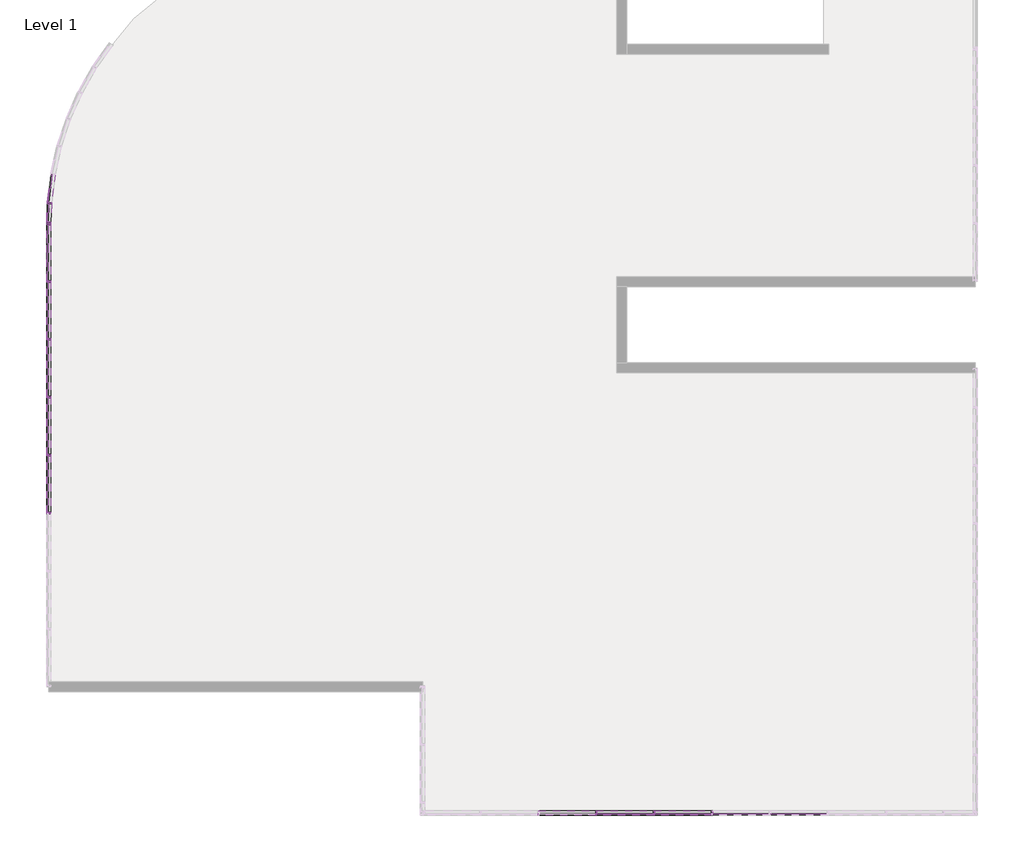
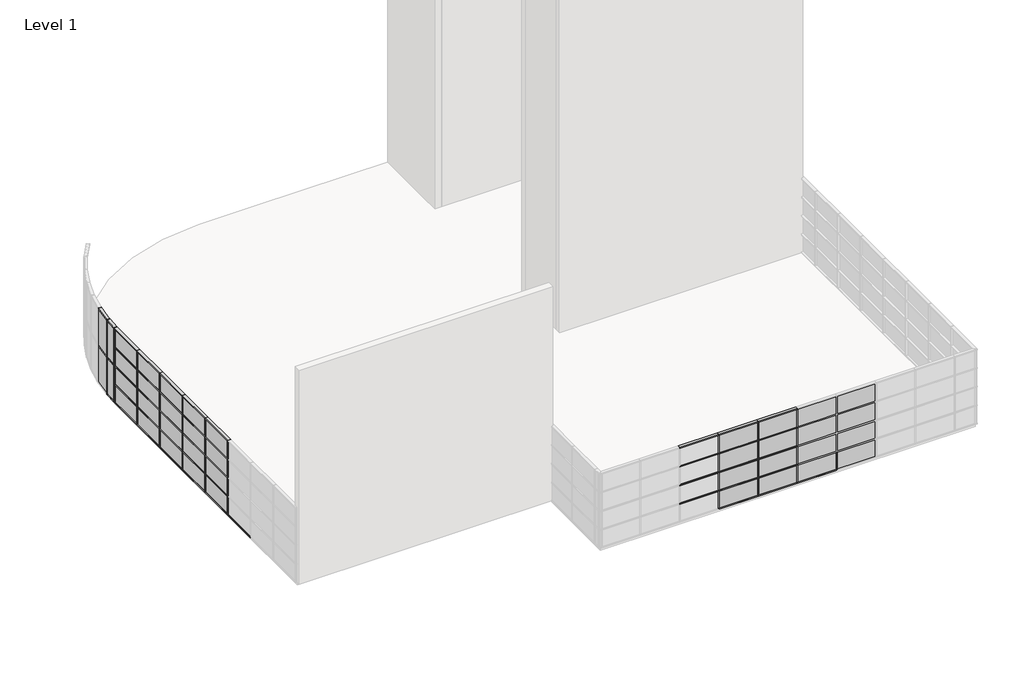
# One storey, part 2 of 6: 87 members, 40 plates.
"""IFC4 building model written with IfcOpenShell, lengths in millimetres."""

from ifc_helpers import new_model, si_unit, origin, place, context, project, spatial, transform, mapped, element, save
from components import rectangular_mullion_50_x_150mm_a053b0ca, rectangular_mullion_50_x_150mm_116cff39, rectangular_mullion_50_x_150mm_aa47fe12, rectangular_mullion_50_x_150mm_3a148f0f, rectangular_mullion_50_x_150mm_a91aaa2b, rectangular_mullion_50_x_150mm_12a430f9, rectangular_mullion_50_x_150mm_25f32059, rectangular_mullion_50_x_150mm_33fa7e5f, rectangular_mullion_50_x_150mm_5679a0dd, system_panel_glazed_92d57a36, system_panel_glazed_751a585c, system_panel_glazed_28c32ad2, system_panel_glazed_08de6f5f, system_panel_glazed_883c1928, system_panel_glazed_b9387e44, system_panel_glazed_02b1be20, system_panel_glazed_efad819a

model = new_model("IFC4")

# Units and contexts
model_context = context("Model", 3, world=origin())
ifc_project = project(units=[si_unit("LENGTHUNIT", "METRE", prefix="MILLI")], contexts=[model_context])

# Site, building, storey
site = spatial("IfcSite", under=ifc_project)
building = spatial("IfcBuilding", under=site)
storey = spatial("IfcBuildingStorey", under=building, Name="Level 1", Elevation=0.0)

# Members
placement = place(None, origin())
rectangular_mullion_50_x_150mm_shape = rectangular_mullion_50_x_150mm_a053b0ca(model_context)
element("IfcMember", 1, ObjectType="Rectangular Mullion : 50 x 150mm", at=placement, inside=storey, context=model_context, shape_type="MappedRepresentation", body=[
    mapped(rectangular_mullion_50_x_150mm_shape, transform((412.826594, -21988.7417365, 1025.0), x_axis=(1.0, 0.0, 0.0), y_axis=(0.0, -1.0, 0.0), z_axis=(0.0, 0.0, -0.9999999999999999))),
])
element("IfcMember", 2, ObjectType="Rectangular Mullion : 50 x 150mm", at=placement, inside=storey, context=model_context, shape_type="MappedRepresentation", body=[
    mapped(rectangular_mullion_50_x_150mm_shape, transform((412.826594, -21988.7417365, 2025.0), x_axis=(1.0, 0.0, 0.0), y_axis=(0.0, -1.0, 0.0), z_axis=(0.0, 0.0, -0.9999999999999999))),
])
element("IfcMember", 3, ObjectType="Rectangular Mullion : 50 x 150mm", at=placement, inside=storey, context=model_context, shape_type="MappedRepresentation", body=[
    mapped(rectangular_mullion_50_x_150mm_shape, transform((412.826594, -21988.7417365, 3025.0), x_axis=(1.0, 0.0, 0.0), y_axis=(0.0, -1.0, 0.0), z_axis=(0.0, 0.0, -1.0))),
])
element("IfcMember", 4, ObjectType="Rectangular Mullion : 50 x 150mm", at=placement, inside=storey, context=model_context, shape_type="MappedRepresentation", body=[
    mapped(rectangular_mullion_50_x_150mm_shape, transform((2412.826594, -21988.7417365, 1025.0), x_axis=(1.0, 0.0, 0.0), y_axis=(0.0, -1.0, 0.0), z_axis=(0.0, 0.0, -0.9999999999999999))),
])
element("IfcMember", 5, ObjectType="Rectangular Mullion : 50 x 150mm", at=placement, inside=storey, context=model_context, shape_type="MappedRepresentation", body=[
    mapped(rectangular_mullion_50_x_150mm_shape, transform((2412.826594, -21988.7417365, 2025.0), x_axis=(1.0, 0.0, 0.0), y_axis=(0.0, -1.0, 0.0), z_axis=(0.0, 0.0, -0.9999999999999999))),
])
element("IfcMember", 6, ObjectType="Rectangular Mullion : 50 x 150mm", at=placement, inside=storey, context=model_context, shape_type="MappedRepresentation", body=[
    mapped(rectangular_mullion_50_x_150mm_shape, transform((2412.826594, -21988.7417365, 3025.0), x_axis=(1.0, 0.0, 0.0), y_axis=(0.0, -1.0, 0.0), z_axis=(0.0, 0.0, -1.0))),
])
element("IfcMember", 7, ObjectType="Rectangular Mullion : 50 x 150mm", at=placement, inside=storey, context=model_context, shape_type="MappedRepresentation", body=[
    mapped(rectangular_mullion_50_x_150mm_shape, transform((4412.826594, -21988.7417365, 1025.0), x_axis=(1.0, 0.0, 0.0), y_axis=(0.0, -1.0, 0.0), z_axis=(0.0, 0.0, -0.9999999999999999))),
])
element("IfcMember", 8, ObjectType="Rectangular Mullion : 50 x 150mm", at=placement, inside=storey, context=model_context, shape_type="MappedRepresentation", body=[
    mapped(rectangular_mullion_50_x_150mm_shape, transform((4412.826594, -21988.7417365, 2025.0), x_axis=(1.0, 0.0, 0.0), y_axis=(0.0, -1.0, 0.0), z_axis=(0.0, 0.0, -0.9999999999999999))),
])
element("IfcMember", 9, ObjectType="Rectangular Mullion : 50 x 150mm", at=placement, inside=storey, context=model_context, shape_type="MappedRepresentation", body=[
    mapped(rectangular_mullion_50_x_150mm_shape, transform((4412.826594, -21988.7417365, 3025.0), x_axis=(1.0, 0.0, 0.0), y_axis=(0.0, -1.0, 0.0), z_axis=(0.0, 0.0, -1.0))),
])
element("IfcMember", 10, ObjectType="Rectangular Mullion : 50 x 150mm", at=placement, inside=storey, context=model_context, shape_type="MappedRepresentation", body=[
    mapped(rectangular_mullion_50_x_150mm_shape, transform((-18496.7339025, -11624.0160434, 1025.0), x_axis=(0.0, -1.0, 0.0), y_axis=(-1.0, 0.0, 0.0), z_axis=(0.0, 0.0, -0.9999999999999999))),
])
element("IfcMember", 11, ObjectType="Rectangular Mullion : 50 x 150mm", at=placement, inside=storey, context=model_context, shape_type="MappedRepresentation", body=[
    mapped(rectangular_mullion_50_x_150mm_shape, transform((-18496.7339025, -11624.0160434, 2025.0), x_axis=(0.0, -1.0, 0.0), y_axis=(-1.0, 0.0, 0.0), z_axis=(0.0, 0.0, -0.9999999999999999))),
])
element("IfcMember", 12, ObjectType="Rectangular Mullion : 50 x 150mm", at=placement, inside=storey, context=model_context, shape_type="MappedRepresentation", body=[
    mapped(rectangular_mullion_50_x_150mm_shape, transform((-18496.7339025, -11624.0160434, 3025.0), x_axis=(0.0, -1.0, 0.0), y_axis=(-1.0, 0.0, 0.0), z_axis=(0.0, 0.0, -1.0))),
])
element("IfcMember", 13, ObjectType="Rectangular Mullion : 50 x 150mm", at=placement, inside=storey, context=model_context, shape_type="MappedRepresentation", body=[
    mapped(rectangular_mullion_50_x_150mm_shape, transform((-18496.7339025, -9624.0160434, 1025.0), x_axis=(0.0, -1.0, 0.0), y_axis=(-1.0, 0.0, 0.0), z_axis=(0.0, 0.0, -0.9999999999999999))),
])
element("IfcMember", 14, ObjectType="Rectangular Mullion : 50 x 150mm", at=placement, inside=storey, context=model_context, shape_type="MappedRepresentation", body=[
    mapped(rectangular_mullion_50_x_150mm_shape, transform((-18496.7339025, -9624.0160434, 2025.0), x_axis=(0.0, -1.0, 0.0), y_axis=(-1.0, 0.0, 0.0), z_axis=(0.0, 0.0, -0.9999999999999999))),
])
element("IfcMember", 15, ObjectType="Rectangular Mullion : 50 x 150mm", at=placement, inside=storey, context=model_context, shape_type="MappedRepresentation", body=[
    mapped(rectangular_mullion_50_x_150mm_shape, transform((-18496.7339025, -7624.0160434, 1025.0), x_axis=(0.0, -1.0, 0.0), y_axis=(-1.0, 0.0, 0.0), z_axis=(0.0, 0.0, -0.9999999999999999))),
])
element("IfcMember", 16, ObjectType="Rectangular Mullion : 50 x 150mm", at=placement, inside=storey, context=model_context, shape_type="MappedRepresentation", body=[
    mapped(rectangular_mullion_50_x_150mm_shape, transform((-18496.7339025, -7624.0160434, 2025.0), x_axis=(0.0, -1.0, 0.0), y_axis=(-1.0, 0.0, 0.0), z_axis=(0.0, 0.0, -0.9999999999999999))),
])
element("IfcMember", 17, ObjectType="Rectangular Mullion : 50 x 150mm", at=placement, inside=storey, context=model_context, shape_type="MappedRepresentation", body=[
    mapped(rectangular_mullion_50_x_150mm_shape, transform((-18496.7339025, -7624.0160434, 3025.0), x_axis=(0.0, -1.0, 0.0), y_axis=(-1.0, 0.0, 0.0), z_axis=(0.0, 0.0, -1.0))),
])
element("IfcMember", 18, ObjectType="Rectangular Mullion : 50 x 150mm", at=placement, inside=storey, context=model_context, shape_type="MappedRepresentation", body=[
    mapped(rectangular_mullion_50_x_150mm_shape, transform((-18496.7339025, -3624.0160434, 1025.0), x_axis=(0.0, -1.0, 0.0), y_axis=(-1.0, 0.0, 0.0), z_axis=(0.0, 0.0, -0.9999999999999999))),
])
element("IfcMember", 19, ObjectType="Rectangular Mullion : 50 x 150mm", at=placement, inside=storey, context=model_context, shape_type="MappedRepresentation", body=[
    mapped(rectangular_mullion_50_x_150mm_shape, transform((-18496.7339025, -3624.0160434, 2025.0), x_axis=(0.0, -1.0, 0.0), y_axis=(-1.0, 0.0, 0.0), z_axis=(0.0, 0.0, -0.9999999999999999))),
])
element("IfcMember", 20, ObjectType="Rectangular Mullion : 50 x 150mm", at=placement, inside=storey, context=model_context, shape_type="MappedRepresentation", body=[
    mapped(rectangular_mullion_50_x_150mm_shape, transform((-18496.7339025, -3624.0160434, 3025.0), x_axis=(0.0, -1.0, 0.0), y_axis=(-1.0, 0.0, 0.0), z_axis=(0.0, 0.0, -1.0))),
])
element("IfcMember", 21, ObjectType="Rectangular Mullion : 50 x 150mm", at=placement, inside=storey, context=model_context, shape_type="MappedRepresentation", body=[
    mapped(rectangular_mullion_50_x_150mm_shape, transform((-18496.7339025, -5624.0160434, 1025.0), x_axis=(0.0, -1.0, 0.0), y_axis=(-1.0, 0.0, 0.0), z_axis=(0.0, 0.0, -0.9999999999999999))),
])
element("IfcMember", 22, ObjectType="Rectangular Mullion : 50 x 150mm", at=placement, inside=storey, context=model_context, shape_type="MappedRepresentation", body=[
    mapped(rectangular_mullion_50_x_150mm_shape, transform((-18496.7339025, -5624.0160434, 2025.0), x_axis=(0.0, -1.0, 0.0), y_axis=(-1.0, 0.0, 0.0), z_axis=(0.0, 0.0, -0.9999999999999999))),
])
element("IfcMember", 23, ObjectType="Rectangular Mullion : 50 x 150mm", at=placement, inside=storey, context=model_context, shape_type="MappedRepresentation", body=[
    mapped(rectangular_mullion_50_x_150mm_shape, transform((-18496.7339025, -5624.0160434, 3025.0), x_axis=(0.0, -1.0, 0.0), y_axis=(-1.0, 0.0, 0.0), z_axis=(0.0, 0.0, -1.0))),
])
element("IfcMember", 24, ObjectType="Rectangular Mullion : 50 x 150mm", at=placement, inside=storey, context=model_context, shape_type="MappedRepresentation", body=[
    mapped(rectangular_mullion_50_x_150mm_shape, transform((-18496.7339025, -9624.0160434, 3025.0), x_axis=(0.0, -1.0, 0.0), y_axis=(-1.0, 0.0, 0.0), z_axis=(0.0, 0.0, -1.0))),
])
rectangular_mullion_50_x_150mm_2_shape = rectangular_mullion_50_x_150mm_116cff39(model_context)
element("IfcMember", 25, ObjectType="Rectangular Mullion : 50 x 150mm", at=placement, inside=storey, context=model_context, shape_type="MappedRepresentation", body=[
    mapped(rectangular_mullion_50_x_150mm_2_shape, transform((412.826594, -21988.7417365, 50.0), x_axis=(1.0, 0.0, 0.0), y_axis=(0.0, -1.0, 0.0), z_axis=(0.0, 0.0, -1.0))),
])
element("IfcMember", 26, ObjectType="Rectangular Mullion : 50 x 150mm", at=placement, inside=storey, context=model_context, shape_type="MappedRepresentation", body=[
    mapped(rectangular_mullion_50_x_150mm_2_shape, transform((2412.826594, -21988.7417365, 50.0), x_axis=(1.0, 0.0, 0.0), y_axis=(0.0, -1.0, 0.0), z_axis=(0.0, 0.0, -1.0))),
])
element("IfcMember", 27, ObjectType="Rectangular Mullion : 50 x 150mm", at=placement, inside=storey, context=model_context, shape_type="MappedRepresentation", body=[
    mapped(rectangular_mullion_50_x_150mm_2_shape, transform((4412.826594, -21988.7417365, 50.0), x_axis=(1.0, 0.0, 0.0), y_axis=(0.0, -1.0, 0.0), z_axis=(0.0, 0.0, -1.0))),
])
element("IfcMember", 28, ObjectType="Rectangular Mullion : 50 x 150mm", at=placement, inside=storey, context=model_context, shape_type="MappedRepresentation", body=[
    mapped(rectangular_mullion_50_x_150mm_2_shape, transform((6412.826594, -21988.7417365, 50.0), x_axis=(1.0, 0.0, 0.0), y_axis=(0.0, -1.0, 0.0), z_axis=(0.0, 0.0, -1.0))),
])
element("IfcMember", 29, ObjectType="Rectangular Mullion : 50 x 150mm", at=placement, inside=storey, context=model_context, shape_type="MappedRepresentation", body=[
    mapped(rectangular_mullion_50_x_150mm_2_shape, transform((-18496.7339025, -9624.0160434, 50.0), x_axis=(0.0, -1.0, 0.0), y_axis=(-1.0, 0.0, 0.0), z_axis=(0.0, 0.0, -0.9999999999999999))),
])
element("IfcMember", 30, ObjectType="Rectangular Mullion : 50 x 150mm", at=placement, inside=storey, context=model_context, shape_type="MappedRepresentation", body=[
    mapped(rectangular_mullion_50_x_150mm_2_shape, transform((-18496.7339025, -7624.0160434, 50.0), x_axis=(0.0, -1.0, 0.0), y_axis=(-1.0, 0.0, 0.0), z_axis=(0.0, 0.0, -1.0))),
])
element("IfcMember", 31, ObjectType="Rectangular Mullion : 50 x 150mm", at=placement, inside=storey, context=model_context, shape_type="MappedRepresentation", body=[
    mapped(rectangular_mullion_50_x_150mm_2_shape, transform((-18496.7339025, -3624.0160434, 50.0), x_axis=(0.0, -1.0, 0.0), y_axis=(-1.0, 0.0, 0.0), z_axis=(0.0, 0.0, -1.0))),
])
element("IfcMember", 32, ObjectType="Rectangular Mullion : 50 x 150mm", at=placement, inside=storey, context=model_context, shape_type="MappedRepresentation", body=[
    mapped(rectangular_mullion_50_x_150mm_2_shape, transform((-18496.7339025, -5624.0160434, 50.0), x_axis=(0.0, -1.0, 0.0), y_axis=(-1.0, 0.0, 0.0), z_axis=(0.0, 0.0, -1.0))),
])
element("IfcMember", 33, ObjectType="Rectangular Mullion : 50 x 150mm", at=placement, inside=storey, context=model_context, shape_type="MappedRepresentation", body=[
    mapped(rectangular_mullion_50_x_150mm_2_shape, transform((-18496.7339025, -11624.0160434, 50.0), x_axis=(0.0, -1.0, 0.0), y_axis=(-1.0, 0.0, 0.0), z_axis=(0.0, 0.0, -0.9999999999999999))),
])
rectangular_mullion_50_x_150mm_3_shape = rectangular_mullion_50_x_150mm_aa47fe12(model_context)
element("IfcMember", 34, ObjectType="Rectangular Mullion : 50 x 150mm", at=placement, inside=storey, context=model_context, shape_type="MappedRepresentation", body=[
    mapped(rectangular_mullion_50_x_150mm_3_shape, transform((-18496.7339025, -1624.0160434, 2000.0), x_axis=(-0.03507811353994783, -0.9993845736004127, 0.0), y_axis=(-0.9993845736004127, 0.03507811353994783, 0.0), z_axis=(0.0, 0.0, -1.0))),
])
element("IfcMember", 35, ObjectType="Rectangular Mullion : 50 x 150mm", at=placement, inside=storey, context=model_context, shape_type="MappedRepresentation", body=[
    mapped(rectangular_mullion_50_x_150mm_3_shape, transform((412.826594, -21988.7417365, 0.0), x_axis=(0.0, 0.0, -1.0), y_axis=(0.0, -1.0, 0.0), z_axis=(-1.0, 0.0, 0.0))),
])
element("IfcMember", 36, ObjectType="Rectangular Mullion : 50 x 150mm", at=placement, inside=storey, context=model_context, shape_type="MappedRepresentation", body=[
    mapped(rectangular_mullion_50_x_150mm_3_shape, transform((2412.826594, -21988.7417365, 0.0), x_axis=(0.0, 0.0, -1.0), y_axis=(0.0, -1.0, 0.0), z_axis=(-1.0, 0.0, 0.0))),
])
element("IfcMember", 37, ObjectType="Rectangular Mullion : 50 x 150mm", at=placement, inside=storey, context=model_context, shape_type="MappedRepresentation", body=[
    mapped(rectangular_mullion_50_x_150mm_3_shape, transform((4412.826594, -21988.7417365, 0.0), x_axis=(0.0, 0.0, -1.0), y_axis=(0.0, -1.0, 0.0), z_axis=(-1.0, 0.0, 0.0))),
])
element("IfcMember", 38, ObjectType="Rectangular Mullion : 50 x 150mm", at=placement, inside=storey, context=model_context, shape_type="MappedRepresentation", body=[
    mapped(rectangular_mullion_50_x_150mm_3_shape, transform((-18496.7339025, -3624.0160434, 0.0), x_axis=(0.0, 0.0, -1.0), y_axis=(-1.0, 0.0, 0.0), z_axis=(0.0, 1.0, 0.0))),
])
element("IfcMember", 39, ObjectType="Rectangular Mullion : 50 x 150mm", at=placement, inside=storey, context=model_context, shape_type="MappedRepresentation", body=[
    mapped(rectangular_mullion_50_x_150mm_3_shape, transform((-18496.7339025, -5624.0160434, 0.0), x_axis=(0.0, 0.0, -1.0), y_axis=(-1.0, 0.0, 0.0), z_axis=(0.0, 1.0, 0.0))),
])
element("IfcMember", 40, ObjectType="Rectangular Mullion : 50 x 150mm", at=placement, inside=storey, context=model_context, shape_type="MappedRepresentation", body=[
    mapped(rectangular_mullion_50_x_150mm_3_shape, transform((-18496.7339025, -7624.0160434, 0.0), x_axis=(0.0, 0.0, -1.0), y_axis=(-1.0, 0.0, 0.0), z_axis=(0.0, 1.0, 0.0))),
])
element("IfcMember", 41, ObjectType="Rectangular Mullion : 50 x 150mm", at=placement, inside=storey, context=model_context, shape_type="MappedRepresentation", body=[
    mapped(rectangular_mullion_50_x_150mm_3_shape, transform((-18496.7339025, -9624.0160434, 0.0), x_axis=(0.0, 0.0, -1.0), y_axis=(-1.0, 0.0, 0.0), z_axis=(0.0, 1.0, 0.0))),
])
element("IfcMember", 42, ObjectType="Rectangular Mullion : 50 x 150mm", at=placement, inside=storey, context=model_context, shape_type="MappedRepresentation", body=[
    mapped(rectangular_mullion_50_x_150mm_3_shape, transform((-18496.7339025, -11624.0160434, 0.0), x_axis=(0.0, 0.0, -1.0), y_axis=(-1.0, 0.0, 0.0), z_axis=(0.0, 1.0, 0.0))),
])
rectangular_mullion_50_x_150mm_4_shape = rectangular_mullion_50_x_150mm_3a148f0f(model_context)
element("IfcMember", 43, ObjectType="Rectangular Mullion : 50 x 150mm", at=placement, inside=storey, context=model_context, shape_type="MappedRepresentation", body=[
    mapped(rectangular_mullion_50_x_150mm_4_shape, transform((-18496.7339025, -3624.0160434, 1000.0), x_axis=(0.0, 0.0, 1.0), y_axis=(-1.0, 0.0, 0.0), z_axis=(0.0, -1.0, 0.0))),
])
element("IfcMember", 44, ObjectType="Rectangular Mullion : 50 x 150mm", at=placement, inside=storey, context=model_context, shape_type="MappedRepresentation", body=[
    mapped(rectangular_mullion_50_x_150mm_4_shape, transform((-18496.7339025, -3624.0160434, 2000.0), x_axis=(0.0, 0.0, 1.0), y_axis=(-1.0, 0.0, 0.0), z_axis=(0.0, -1.0, 0.0))),
])
element("IfcMember", 45, ObjectType="Rectangular Mullion : 50 x 150mm", at=placement, inside=storey, context=model_context, shape_type="MappedRepresentation", body=[
    mapped(rectangular_mullion_50_x_150mm_4_shape, transform((-18496.7339025, -3624.0160434, 3000.0), x_axis=(0.0, 0.0, 1.0), y_axis=(-1.0, 0.0, 0.0), z_axis=(0.0, -1.0, 0.0))),
])
element("IfcMember", 46, ObjectType="Rectangular Mullion : 50 x 150mm", at=placement, inside=storey, context=model_context, shape_type="MappedRepresentation", body=[
    mapped(rectangular_mullion_50_x_150mm_4_shape, transform((-18496.7339025, -3624.0160434, 4000.0), x_axis=(0.0, 0.0, 1.0), y_axis=(-1.0, 0.0, 0.0), z_axis=(0.0, -1.0, 0.0))),
])
element("IfcMember", 47, ObjectType="Rectangular Mullion : 50 x 150mm", at=placement, inside=storey, context=model_context, shape_type="MappedRepresentation", body=[
    mapped(rectangular_mullion_50_x_150mm_4_shape, transform((412.826594, -21988.7417365, 1000.0), x_axis=(0.0, 0.0, 1.0), y_axis=(0.0, -1.0, 0.0), z_axis=(1.0, 0.0, 0.0))),
])
element("IfcMember", 48, ObjectType="Rectangular Mullion : 50 x 150mm", at=placement, inside=storey, context=model_context, shape_type="MappedRepresentation", body=[
    mapped(rectangular_mullion_50_x_150mm_4_shape, transform((2412.826594, -21988.7417365, 1000.0), x_axis=(0.0, 0.0, 1.0), y_axis=(0.0, -1.0, 0.0), z_axis=(1.0, 0.0, 0.0))),
])
element("IfcMember", 49, ObjectType="Rectangular Mullion : 50 x 150mm", at=placement, inside=storey, context=model_context, shape_type="MappedRepresentation", body=[
    mapped(rectangular_mullion_50_x_150mm_4_shape, transform((4412.826594, -21988.7417365, 1000.0), x_axis=(0.0, 0.0, 1.0), y_axis=(0.0, -1.0, 0.0), z_axis=(1.0, 0.0, 0.0))),
])
element("IfcMember", 50, ObjectType="Rectangular Mullion : 50 x 150mm", at=placement, inside=storey, context=model_context, shape_type="MappedRepresentation", body=[
    mapped(rectangular_mullion_50_x_150mm_4_shape, transform((412.826594, -21988.7417365, 2000.0), x_axis=(0.0, 0.0, 1.0), y_axis=(0.0, -1.0, 0.0), z_axis=(1.0, 0.0, 0.0))),
])
element("IfcMember", 51, ObjectType="Rectangular Mullion : 50 x 150mm", at=placement, inside=storey, context=model_context, shape_type="MappedRepresentation", body=[
    mapped(rectangular_mullion_50_x_150mm_4_shape, transform((2412.826594, -21988.7417365, 2000.0), x_axis=(0.0, 0.0, 1.0), y_axis=(0.0, -1.0, 0.0), z_axis=(1.0, 0.0, 0.0))),
])
element("IfcMember", 52, ObjectType="Rectangular Mullion : 50 x 150mm", at=placement, inside=storey, context=model_context, shape_type="MappedRepresentation", body=[
    mapped(rectangular_mullion_50_x_150mm_4_shape, transform((4412.826594, -21988.7417365, 2000.0), x_axis=(0.0, 0.0, 1.0), y_axis=(0.0, -1.0, 0.0), z_axis=(1.0, 0.0, 0.0))),
])
element("IfcMember", 53, ObjectType="Rectangular Mullion : 50 x 150mm", at=placement, inside=storey, context=model_context, shape_type="MappedRepresentation", body=[
    mapped(rectangular_mullion_50_x_150mm_4_shape, transform((412.826594, -21988.7417365, 3000.0), x_axis=(0.0, 0.0, 1.0), y_axis=(0.0, -1.0, 0.0), z_axis=(1.0, 0.0, 0.0))),
])
element("IfcMember", 54, ObjectType="Rectangular Mullion : 50 x 150mm", at=placement, inside=storey, context=model_context, shape_type="MappedRepresentation", body=[
    mapped(rectangular_mullion_50_x_150mm_4_shape, transform((2412.826594, -21988.7417365, 3000.0), x_axis=(0.0, 0.0, 1.0), y_axis=(0.0, -1.0, 0.0), z_axis=(1.0, 0.0, 0.0))),
])
element("IfcMember", 55, ObjectType="Rectangular Mullion : 50 x 150mm", at=placement, inside=storey, context=model_context, shape_type="MappedRepresentation", body=[
    mapped(rectangular_mullion_50_x_150mm_4_shape, transform((4412.826594, -21988.7417365, 3000.0), x_axis=(0.0, 0.0, 1.0), y_axis=(0.0, -1.0, 0.0), z_axis=(1.0, 0.0, 0.0))),
])
element("IfcMember", 56, ObjectType="Rectangular Mullion : 50 x 150mm", at=placement, inside=storey, context=model_context, shape_type="MappedRepresentation", body=[
    mapped(rectangular_mullion_50_x_150mm_4_shape, transform((412.826594, -21988.7417365, 4000.0), x_axis=(0.0, 0.0, 1.0), y_axis=(0.0, -1.0, 0.0), z_axis=(1.0, 0.0, 0.0))),
])
element("IfcMember", 57, ObjectType="Rectangular Mullion : 50 x 150mm", at=placement, inside=storey, context=model_context, shape_type="MappedRepresentation", body=[
    mapped(rectangular_mullion_50_x_150mm_4_shape, transform((2412.826594, -21988.7417365, 4000.0), x_axis=(0.0, 0.0, 1.0), y_axis=(0.0, -1.0, 0.0), z_axis=(1.0, 0.0, 0.0))),
])
element("IfcMember", 58, ObjectType="Rectangular Mullion : 50 x 150mm", at=placement, inside=storey, context=model_context, shape_type="MappedRepresentation", body=[
    mapped(rectangular_mullion_50_x_150mm_4_shape, transform((4412.826594, -21988.7417365, 4000.0), x_axis=(0.0, 0.0, 1.0), y_axis=(0.0, -1.0, 0.0), z_axis=(1.0, 0.0, 0.0))),
])
element("IfcMember", 59, ObjectType="Rectangular Mullion : 50 x 150mm", at=placement, inside=storey, context=model_context, shape_type="MappedRepresentation", body=[
    mapped(rectangular_mullion_50_x_150mm_4_shape, transform((-18496.7339025, -5624.0160434, 1000.0), x_axis=(0.0, 0.0, 1.0), y_axis=(-1.0, 0.0, 0.0), z_axis=(0.0, -1.0, 0.0))),
])
element("IfcMember", 60, ObjectType="Rectangular Mullion : 50 x 150mm", at=placement, inside=storey, context=model_context, shape_type="MappedRepresentation", body=[
    mapped(rectangular_mullion_50_x_150mm_4_shape, transform((-18496.7339025, -7624.0160434, 1000.0), x_axis=(0.0, 0.0, 1.0), y_axis=(-1.0, 0.0, 0.0), z_axis=(0.0, -1.0, 0.0))),
])
element("IfcMember", 61, ObjectType="Rectangular Mullion : 50 x 150mm", at=placement, inside=storey, context=model_context, shape_type="MappedRepresentation", body=[
    mapped(rectangular_mullion_50_x_150mm_4_shape, transform((-18496.7339025, -9624.0160434, 1000.0), x_axis=(0.0, 0.0, 1.0), y_axis=(-1.0, 0.0, 0.0), z_axis=(0.0, -1.0, 0.0))),
])
element("IfcMember", 62, ObjectType="Rectangular Mullion : 50 x 150mm", at=placement, inside=storey, context=model_context, shape_type="MappedRepresentation", body=[
    mapped(rectangular_mullion_50_x_150mm_4_shape, transform((-18496.7339025, -11624.0160434, 1000.0), x_axis=(0.0, 0.0, 1.0), y_axis=(-1.0, 0.0, 0.0), z_axis=(0.0, -1.0, 0.0))),
])
element("IfcMember", 63, ObjectType="Rectangular Mullion : 50 x 150mm", at=placement, inside=storey, context=model_context, shape_type="MappedRepresentation", body=[
    mapped(rectangular_mullion_50_x_150mm_4_shape, transform((-18496.7339025, -5624.0160434, 2000.0), x_axis=(0.0, 0.0, 1.0), y_axis=(-1.0, 0.0, 0.0), z_axis=(0.0, -1.0, 0.0))),
])
element("IfcMember", 64, ObjectType="Rectangular Mullion : 50 x 150mm", at=placement, inside=storey, context=model_context, shape_type="MappedRepresentation", body=[
    mapped(rectangular_mullion_50_x_150mm_4_shape, transform((-18496.7339025, -7624.0160434, 2000.0), x_axis=(0.0, 0.0, 1.0), y_axis=(-1.0, 0.0, 0.0), z_axis=(0.0, -1.0, 0.0))),
])
element("IfcMember", 65, ObjectType="Rectangular Mullion : 50 x 150mm", at=placement, inside=storey, context=model_context, shape_type="MappedRepresentation", body=[
    mapped(rectangular_mullion_50_x_150mm_4_shape, transform((-18496.7339025, -9624.0160434, 2000.0), x_axis=(0.0, 0.0, 1.0), y_axis=(-1.0, 0.0, 0.0), z_axis=(0.0, -1.0, 0.0))),
])
element("IfcMember", 66, ObjectType="Rectangular Mullion : 50 x 150mm", at=placement, inside=storey, context=model_context, shape_type="MappedRepresentation", body=[
    mapped(rectangular_mullion_50_x_150mm_4_shape, transform((-18496.7339025, -11624.0160434, 2000.0), x_axis=(0.0, 0.0, 1.0), y_axis=(-1.0, 0.0, 0.0), z_axis=(0.0, -1.0, 0.0))),
])
element("IfcMember", 67, ObjectType="Rectangular Mullion : 50 x 150mm", at=placement, inside=storey, context=model_context, shape_type="MappedRepresentation", body=[
    mapped(rectangular_mullion_50_x_150mm_4_shape, transform((-18496.7339025, -5624.0160434, 3000.0), x_axis=(0.0, 0.0, 1.0), y_axis=(-1.0, 0.0, 0.0), z_axis=(0.0, -1.0, 0.0))),
])
element("IfcMember", 68, ObjectType="Rectangular Mullion : 50 x 150mm", at=placement, inside=storey, context=model_context, shape_type="MappedRepresentation", body=[
    mapped(rectangular_mullion_50_x_150mm_4_shape, transform((-18496.7339025, -7624.0160434, 3000.0), x_axis=(0.0, 0.0, 1.0), y_axis=(-1.0, 0.0, 0.0), z_axis=(0.0, -1.0, 0.0))),
])
element("IfcMember", 69, ObjectType="Rectangular Mullion : 50 x 150mm", at=placement, inside=storey, context=model_context, shape_type="MappedRepresentation", body=[
    mapped(rectangular_mullion_50_x_150mm_4_shape, transform((-18496.7339025, -9624.0160434, 3000.0), x_axis=(0.0, 0.0, 1.0), y_axis=(-1.0, 0.0, 0.0), z_axis=(0.0, -1.0, 0.0))),
])
element("IfcMember", 70, ObjectType="Rectangular Mullion : 50 x 150mm", at=placement, inside=storey, context=model_context, shape_type="MappedRepresentation", body=[
    mapped(rectangular_mullion_50_x_150mm_4_shape, transform((-18496.7339025, -11624.0160434, 3000.0), x_axis=(0.0, 0.0, 1.0), y_axis=(-1.0, 0.0, 0.0), z_axis=(0.0, -1.0, 0.0))),
])
element("IfcMember", 71, ObjectType="Rectangular Mullion : 50 x 150mm", at=placement, inside=storey, context=model_context, shape_type="MappedRepresentation", body=[
    mapped(rectangular_mullion_50_x_150mm_4_shape, transform((-18496.7339025, -5624.0160434, 4000.0), x_axis=(0.0, 0.0, 1.0), y_axis=(-1.0, 0.0, 0.0), z_axis=(0.0, -1.0, 0.0))),
])
element("IfcMember", 72, ObjectType="Rectangular Mullion : 50 x 150mm", at=placement, inside=storey, context=model_context, shape_type="MappedRepresentation", body=[
    mapped(rectangular_mullion_50_x_150mm_4_shape, transform((-18496.7339025, -7624.0160434, 4000.0), x_axis=(0.0, 0.0, 1.0), y_axis=(-1.0, 0.0, 0.0), z_axis=(0.0, -1.0, 0.0))),
])
element("IfcMember", 73, ObjectType="Rectangular Mullion : 50 x 150mm", at=placement, inside=storey, context=model_context, shape_type="MappedRepresentation", body=[
    mapped(rectangular_mullion_50_x_150mm_4_shape, transform((-18496.7339025, -9624.0160434, 4000.0), x_axis=(0.0, 0.0, 1.0), y_axis=(-1.0, 0.0, 0.0), z_axis=(0.0, -1.0, 0.0))),
])
element("IfcMember", 74, ObjectType="Rectangular Mullion : 50 x 150mm", at=placement, inside=storey, context=model_context, shape_type="MappedRepresentation", body=[
    mapped(rectangular_mullion_50_x_150mm_4_shape, transform((-18496.7339025, -11624.0160434, 4000.0), x_axis=(0.0, 0.0, 1.0), y_axis=(-1.0, 0.0, 0.0), z_axis=(0.0, -1.0, 0.0))),
])
element("IfcMember", 75, ObjectType="Rectangular Mullion : 50 x 150mm", at=placement, inside=storey, context=model_context, shape_type="MappedRepresentation", body=[
    mapped(rectangular_mullion_50_x_150mm_4_shape, transform((-18472.1244215, -922.8855326, 2000.0), x_axis=(-0.07011305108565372, -0.9975390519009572, 0.0), y_axis=(-0.9975390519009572, 0.07011305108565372, 0.0), z_axis=(0.0, 0.0, -1.0))),
])
element("IfcMember", 76, ObjectType="Rectangular Mullion : 50 x 150mm", at=placement, inside=storey, context=model_context, shape_type="MappedRepresentation", body=[
    mapped(rectangular_mullion_50_x_150mm_3_shape, transform((-18496.7339025, -1624.0160434, 0.0), x_axis=(0.0, 0.0, -1.0), y_axis=(-1.0, 0.0, 0.0), z_axis=(0.0, 0.9999999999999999, 0.0))),
])
rectangular_mullion_50_x_150mm_5_shape = rectangular_mullion_50_x_150mm_a91aaa2b(model_context)
element("IfcMember", 77, ObjectType="Rectangular Mullion : 50 x 150mm", at=placement, inside=storey, context=model_context, shape_type="MappedRepresentation", body=[
    mapped(rectangular_mullion_50_x_150mm_5_shape, transform((-18496.7339025, -1624.0160434, 975.0), x_axis=(0.0, 1.0, 0.0), y_axis=(-1.0, 0.0, 0.0), z_axis=(0.0, 0.0, 1.0))),
])
rectangular_mullion_50_x_150mm_6_shape = rectangular_mullion_50_x_150mm_12a430f9(model_context)
element("IfcMember", 78, ObjectType="Rectangular Mullion : 50 x 150mm", at=placement, inside=storey, context=model_context, shape_type="MappedRepresentation", body=[
    mapped(rectangular_mullion_50_x_150mm_6_shape, transform((-18496.7339025, -1624.0160434, 1975.0), x_axis=(0.0, 1.0, 0.0), y_axis=(-1.0, 0.0, 0.0), z_axis=(0.0, 0.0, 0.9999999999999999))),
])
element("IfcMember", 79, ObjectType="Rectangular Mullion : 50 x 150mm", at=placement, inside=storey, context=model_context, shape_type="MappedRepresentation", body=[
    mapped(rectangular_mullion_50_x_150mm_6_shape, transform((-18496.7339025, -1624.0160434, 2975.0), x_axis=(0.0, 1.0, 0.0), y_axis=(-1.0, 0.0, 0.0), z_axis=(0.0, 0.0, 0.9999999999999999))),
])
element("IfcMember", 80, ObjectType="Rectangular Mullion : 50 x 150mm", at=placement, inside=storey, context=model_context, shape_type="MappedRepresentation", body=[
    mapped(rectangular_mullion_50_x_150mm_6_shape, transform((-18496.7339025, -1624.0160434, 3975.0), x_axis=(0.0, 1.0, 0.0), y_axis=(-1.0, 0.0, 0.0), z_axis=(0.0, 0.0, 1.0))),
])
element("IfcMember", 81, ObjectType="Rectangular Mullion : 50 x 150mm", at=placement, inside=storey, context=model_context, shape_type="MappedRepresentation", body=[
    mapped(rectangular_mullion_50_x_150mm_4_shape, transform((-18472.1244215, -922.8855326, 0.0), x_axis=(-0.07011305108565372, -0.9975390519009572, 0.0), y_axis=(-0.9975390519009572, 0.07011305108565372, 0.0), z_axis=(0.0, 0.0, -1.0))),
])
rectangular_mullion_50_x_150mm_7_shape = rectangular_mullion_50_x_150mm_25f32059(model_context)
element("IfcMember", 82, ObjectType="Rectangular Mullion : 50 x 150mm", at=placement, inside=storey, context=model_context, shape_type="MappedRepresentation", body=[
    mapped(rectangular_mullion_50_x_150mm_7_shape, transform((-18469.1268638, -898.0658902, 4000.0), x_axis=(0.0, 0.0, 1.0), y_axis=(-0.9927856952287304, 0.11990230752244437, 0.0), z_axis=(-0.11990230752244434, -0.9927856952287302, 0.0))),
])
element("IfcMember", 83, ObjectType="Rectangular Mullion : 50 x 150mm", at=placement, inside=storey, context=model_context, shape_type="MappedRepresentation", body=[
    mapped(rectangular_mullion_50_x_150mm_7_shape, transform((-18469.1268638, -898.0658902, 2000.0), x_axis=(0.0, 0.0, 1.0), y_axis=(-0.9927856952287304, 0.11990230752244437, 0.0), z_axis=(-0.11990230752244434, -0.9927856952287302, 0.0))),
])
rectangular_mullion_50_x_150mm_8_shape = rectangular_mullion_50_x_150mm_33fa7e5f(model_context)
element("IfcMember", 84, ObjectType="Rectangular Mullion : 50 x 150mm", at=placement, inside=storey, context=model_context, shape_type="MappedRepresentation", body=[
    mapped(rectangular_mullion_50_x_150mm_8_shape, transform((-18494.9799968, -1574.0468148, 4000.0), x_axis=(0.0, 0.0, 1.0), y_axis=(-0.9993845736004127, 0.03507811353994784, 0.0), z_axis=(-0.03507811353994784, -0.9993845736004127, 0.0))),
])
element("IfcMember", 85, ObjectType="Rectangular Mullion : 50 x 150mm", at=placement, inside=storey, context=model_context, shape_type="MappedRepresentation", body=[
    mapped(rectangular_mullion_50_x_150mm_8_shape, transform((-18494.9799968, -1574.0468148, 2000.0), x_axis=(0.0, 0.0, 1.0), y_axis=(-0.9993845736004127, 0.03507811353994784, 0.0), z_axis=(-0.03507811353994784, -0.9993845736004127, 0.0))),
])
rectangular_mullion_50_x_150mm_9_shape = rectangular_mullion_50_x_150mm_5679a0dd(model_context)
element("IfcMember", 86, ObjectType="Rectangular Mullion : 50 x 150mm", at=placement, inside=storey, context=model_context, shape_type="MappedRepresentation", body=[
    mapped(rectangular_mullion_50_x_150mm_9_shape, transform((-18473.0013743, -947.8701469, 0.0), x_axis=(0.0, 0.0, -1.0), y_axis=(-0.9993845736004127, 0.03507811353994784, 0.0), z_axis=(0.03507811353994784, 0.9993845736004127, 0.0))),
])
element("IfcMember", 87, ObjectType="Rectangular Mullion : 50 x 150mm", at=placement, inside=storey, context=model_context, shape_type="MappedRepresentation", body=[
    mapped(rectangular_mullion_50_x_150mm_3_shape, transform((-18496.7339025, -1624.0160434, 0.0), x_axis=(-0.03507811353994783, -0.9993845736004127, 0.0), y_axis=(-0.9993845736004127, 0.03507811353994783, 0.0), z_axis=(0.0, 0.0, -1.0))),
])

# Plates
system_panel_glazed_shape = system_panel_glazed_92d57a36(model_context)
element("IfcPlate", 88, ObjectType="System Panel : Glazed", at=placement, inside=storey, context=model_context, shape_type="MappedRepresentation", body=[
    mapped(system_panel_glazed_shape, transform((-18496.7339025, -1674.0160434, 512.5), x_axis=(0.0, 0.0, 1.0), y_axis=(-1.0, 0.0, 0.0), z_axis=(0.0, -1.0, 0.0))),
])
system_panel_glazed_2_shape = system_panel_glazed_751a585c(model_context)
element("IfcPlate", 89, ObjectType="System Panel : Glazed", at=placement, inside=storey, context=model_context, shape_type="MappedRepresentation", body=[
    mapped(system_panel_glazed_2_shape, transform((-18496.7339025, -1674.0160434, 1500.0), x_axis=(0.0, 0.0, 1.0), y_axis=(-1.0, 0.0, 0.0), z_axis=(0.0, -1.0, 0.0))),
])
element("IfcPlate", 90, ObjectType="System Panel : Glazed", at=placement, inside=storey, context=model_context, shape_type="MappedRepresentation", body=[
    mapped(system_panel_glazed_2_shape, transform((-18496.7339025, -1674.0160434, 2500.0), x_axis=(0.0, 0.0, 1.0), y_axis=(-1.0, 0.0, 0.0), z_axis=(0.0, -1.0, 0.0))),
])
element("IfcPlate", 91, ObjectType="System Panel : Glazed", at=placement, inside=storey, context=model_context, shape_type="MappedRepresentation", body=[
    mapped(system_panel_glazed_2_shape, transform((-18496.7339025, -1674.0160434, 3500.0), x_axis=(0.0, 0.0, 1.0), y_axis=(-1.0, 0.0, 0.0), z_axis=(0.0, -1.0, 0.0))),
])
system_panel_glazed_3_shape = system_panel_glazed_28c32ad2(model_context)
element("IfcPlate", 92, ObjectType="System Panel : Glazed", at=placement, inside=storey, context=model_context, shape_type="MappedRepresentation", body=[
    mapped(system_panel_glazed_3_shape, transform((-18496.7339025, -3649.0160434, 512.5), x_axis=(0.0, 0.0, 1.0), y_axis=(-1.0, 0.0, 0.0), z_axis=(0.0, -1.0, 0.0))),
])
element("IfcPlate", 93, ObjectType="System Panel : Glazed", at=placement, inside=storey, context=model_context, shape_type="MappedRepresentation", body=[
    mapped(system_panel_glazed_3_shape, transform((-18496.7339025, -5649.0160434, 512.5), x_axis=(0.0, 0.0, 1.0), y_axis=(-1.0, 0.0, 0.0), z_axis=(0.0, -1.0, 0.0))),
])
element("IfcPlate", 94, ObjectType="System Panel : Glazed", at=placement, inside=storey, context=model_context, shape_type="MappedRepresentation", body=[
    mapped(system_panel_glazed_3_shape, transform((-18496.7339025, -7649.0160434, 512.5), x_axis=(0.0, 0.0, 1.0), y_axis=(-1.0, 0.0, 0.0), z_axis=(0.0, -1.0, 0.0))),
])
element("IfcPlate", 95, ObjectType="System Panel : Glazed", at=placement, inside=storey, context=model_context, shape_type="MappedRepresentation", body=[
    mapped(system_panel_glazed_3_shape, transform((-18496.7339025, -9649.0160434, 512.5), x_axis=(0.0, 0.0, 1.0), y_axis=(-1.0, 0.0, 0.0), z_axis=(0.0, -1.0, 0.0))),
])
element("IfcPlate", 96, ObjectType="System Panel : Glazed", at=placement, inside=storey, context=model_context, shape_type="MappedRepresentation", body=[
    mapped(system_panel_glazed_3_shape, transform((437.826594, -21988.7417365, 512.5), x_axis=(0.0, 0.0, 1.0), y_axis=(0.0, -1.0, 0.0), z_axis=(1.0, 0.0, 0.0))),
])
element("IfcPlate", 97, ObjectType="System Panel : Glazed", at=placement, inside=storey, context=model_context, shape_type="MappedRepresentation", body=[
    mapped(system_panel_glazed_3_shape, transform((2437.826594, -21988.7417365, 512.5), x_axis=(0.0, 0.0, 1.0), y_axis=(0.0, -1.0, 0.0), z_axis=(1.0, 0.0, 0.0))),
])
element("IfcPlate", 98, ObjectType="System Panel : Glazed", at=placement, inside=storey, context=model_context, shape_type="MappedRepresentation", body=[
    mapped(system_panel_glazed_3_shape, transform((4437.826594, -21988.7417365, 512.5), x_axis=(0.0, 0.0, 1.0), y_axis=(0.0, -1.0, 0.0), z_axis=(1.0, 0.0, 0.0))),
])
element("IfcPlate", 99, ObjectType="System Panel : Glazed", at=placement, inside=storey, context=model_context, shape_type="MappedRepresentation", body=[
    mapped(system_panel_glazed_3_shape, transform((6437.826594, -21988.7417365, 512.5), x_axis=(0.0, 0.0, 1.0), y_axis=(0.0, -1.0, 0.0), z_axis=(1.0, 0.0, 0.0))),
])
system_panel_glazed_4_shape = system_panel_glazed_08de6f5f(model_context)
element("IfcPlate", 100, ObjectType="System Panel : Glazed", at=placement, inside=storey, context=model_context, shape_type="MappedRepresentation", body=[
    mapped(system_panel_glazed_4_shape, transform((-18496.7339025, -3649.0160434, 1500.0), x_axis=(0.0, 0.0, 1.0), y_axis=(-1.0, 0.0, 0.0), z_axis=(0.0, -1.0, 0.0))),
])
element("IfcPlate", 101, ObjectType="System Panel : Glazed", at=placement, inside=storey, context=model_context, shape_type="MappedRepresentation", body=[
    mapped(system_panel_glazed_4_shape, transform((-18496.7339025, -3649.0160434, 2500.0), x_axis=(0.0, 0.0, 1.0), y_axis=(-1.0, 0.0, 0.0), z_axis=(0.0, -1.0, 0.0))),
])
element("IfcPlate", 102, ObjectType="System Panel : Glazed", at=placement, inside=storey, context=model_context, shape_type="MappedRepresentation", body=[
    mapped(system_panel_glazed_4_shape, transform((-18496.7339025, -3649.0160434, 3500.0), x_axis=(0.0, 0.0, 1.0), y_axis=(-1.0, 0.0, 0.0), z_axis=(0.0, -1.0, 0.0))),
])
element("IfcPlate", 103, ObjectType="System Panel : Glazed", at=placement, inside=storey, context=model_context, shape_type="MappedRepresentation", body=[
    mapped(system_panel_glazed_4_shape, transform((-18496.7339025, -5649.0160434, 1500.0), x_axis=(0.0, 0.0, 1.0), y_axis=(-1.0, 0.0, 0.0), z_axis=(0.0, -1.0, 0.0))),
])
element("IfcPlate", 104, ObjectType="System Panel : Glazed", at=placement, inside=storey, context=model_context, shape_type="MappedRepresentation", body=[
    mapped(system_panel_glazed_4_shape, transform((-18496.7339025, -5649.0160434, 2500.0), x_axis=(0.0, 0.0, 1.0), y_axis=(-1.0, 0.0, 0.0), z_axis=(0.0, -1.0, 0.0))),
])
element("IfcPlate", 105, ObjectType="System Panel : Glazed", at=placement, inside=storey, context=model_context, shape_type="MappedRepresentation", body=[
    mapped(system_panel_glazed_4_shape, transform((-18496.7339025, -5649.0160434, 3500.0), x_axis=(0.0, 0.0, 1.0), y_axis=(-1.0, 0.0, 0.0), z_axis=(0.0, -1.0, 0.0))),
])
element("IfcPlate", 106, ObjectType="System Panel : Glazed", at=placement, inside=storey, context=model_context, shape_type="MappedRepresentation", body=[
    mapped(system_panel_glazed_4_shape, transform((-18496.7339025, -7649.0160434, 1500.0), x_axis=(0.0, 0.0, 1.0), y_axis=(-1.0, 0.0, 0.0), z_axis=(0.0, -1.0, 0.0))),
])
element("IfcPlate", 107, ObjectType="System Panel : Glazed", at=placement, inside=storey, context=model_context, shape_type="MappedRepresentation", body=[
    mapped(system_panel_glazed_4_shape, transform((-18496.7339025, -7649.0160434, 2500.0), x_axis=(0.0, 0.0, 1.0), y_axis=(-1.0, 0.0, 0.0), z_axis=(0.0, -1.0, 0.0))),
])
element("IfcPlate", 108, ObjectType="System Panel : Glazed", at=placement, inside=storey, context=model_context, shape_type="MappedRepresentation", body=[
    mapped(system_panel_glazed_4_shape, transform((-18496.7339025, -7649.0160434, 3500.0), x_axis=(0.0, 0.0, 1.0), y_axis=(-1.0, 0.0, 0.0), z_axis=(0.0, -1.0, 0.0))),
])
element("IfcPlate", 109, ObjectType="System Panel : Glazed", at=placement, inside=storey, context=model_context, shape_type="MappedRepresentation", body=[
    mapped(system_panel_glazed_4_shape, transform((-18496.7339025, -9649.0160434, 1500.0), x_axis=(0.0, 0.0, 1.0), y_axis=(-1.0, 0.0, 0.0), z_axis=(0.0, -1.0, 0.0))),
])
element("IfcPlate", 110, ObjectType="System Panel : Glazed", at=placement, inside=storey, context=model_context, shape_type="MappedRepresentation", body=[
    mapped(system_panel_glazed_4_shape, transform((-18496.7339025, -9649.0160434, 2500.0), x_axis=(0.0, 0.0, 1.0), y_axis=(-1.0, 0.0, 0.0), z_axis=(0.0, -1.0, 0.0))),
])
element("IfcPlate", 111, ObjectType="System Panel : Glazed", at=placement, inside=storey, context=model_context, shape_type="MappedRepresentation", body=[
    mapped(system_panel_glazed_4_shape, transform((-18496.7339025, -9649.0160434, 3500.0), x_axis=(0.0, 0.0, 1.0), y_axis=(-1.0, 0.0, 0.0), z_axis=(0.0, -1.0, 0.0))),
])
element("IfcPlate", 112, ObjectType="System Panel : Glazed", at=placement, inside=storey, context=model_context, shape_type="MappedRepresentation", body=[
    mapped(system_panel_glazed_4_shape, transform((437.826594, -21988.7417365, 1500.0), x_axis=(0.0, 0.0, 1.0), y_axis=(0.0, -1.0, 0.0), z_axis=(1.0, 0.0, 0.0))),
])
element("IfcPlate", 113, ObjectType="System Panel : Glazed", at=placement, inside=storey, context=model_context, shape_type="MappedRepresentation", body=[
    mapped(system_panel_glazed_4_shape, transform((437.826594, -21988.7417365, 2500.0), x_axis=(0.0, 0.0, 1.0), y_axis=(0.0, -1.0, 0.0), z_axis=(1.0, 0.0, 0.0))),
])
element("IfcPlate", 114, ObjectType="System Panel : Glazed", at=placement, inside=storey, context=model_context, shape_type="MappedRepresentation", body=[
    mapped(system_panel_glazed_4_shape, transform((437.826594, -21988.7417365, 3500.0), x_axis=(0.0, 0.0, 1.0), y_axis=(0.0, -1.0, 0.0), z_axis=(1.0, 0.0, 0.0))),
])
element("IfcPlate", 115, ObjectType="System Panel : Glazed", at=placement, inside=storey, context=model_context, shape_type="MappedRepresentation", body=[
    mapped(system_panel_glazed_4_shape, transform((2437.826594, -21988.7417365, 1500.0), x_axis=(0.0, 0.0, 1.0), y_axis=(0.0, -1.0, 0.0), z_axis=(1.0, 0.0, 0.0))),
])
element("IfcPlate", 116, ObjectType="System Panel : Glazed", at=placement, inside=storey, context=model_context, shape_type="MappedRepresentation", body=[
    mapped(system_panel_glazed_4_shape, transform((2437.826594, -21988.7417365, 2500.0), x_axis=(0.0, 0.0, 1.0), y_axis=(0.0, -1.0, 0.0), z_axis=(1.0, 0.0, 0.0))),
])
element("IfcPlate", 117, ObjectType="System Panel : Glazed", at=placement, inside=storey, context=model_context, shape_type="MappedRepresentation", body=[
    mapped(system_panel_glazed_4_shape, transform((2437.826594, -21988.7417365, 3500.0), x_axis=(0.0, 0.0, 1.0), y_axis=(0.0, -1.0, 0.0), z_axis=(1.0, 0.0, 0.0))),
])
element("IfcPlate", 118, ObjectType="System Panel : Glazed", at=placement, inside=storey, context=model_context, shape_type="MappedRepresentation", body=[
    mapped(system_panel_glazed_4_shape, transform((4437.826594, -21988.7417365, 1500.0), x_axis=(0.0, 0.0, 1.0), y_axis=(0.0, -1.0, 0.0), z_axis=(1.0, 0.0, 0.0))),
])
element("IfcPlate", 119, ObjectType="System Panel : Glazed", at=placement, inside=storey, context=model_context, shape_type="MappedRepresentation", body=[
    mapped(system_panel_glazed_4_shape, transform((4437.826594, -21988.7417365, 2500.0), x_axis=(0.0, 0.0, 1.0), y_axis=(0.0, -1.0, 0.0), z_axis=(1.0, 0.0, 0.0))),
])
element("IfcPlate", 120, ObjectType="System Panel : Glazed", at=placement, inside=storey, context=model_context, shape_type="MappedRepresentation", body=[
    mapped(system_panel_glazed_4_shape, transform((4437.826594, -21988.7417365, 3500.0), x_axis=(0.0, 0.0, 1.0), y_axis=(0.0, -1.0, 0.0), z_axis=(1.0, 0.0, 0.0))),
])
element("IfcPlate", 121, ObjectType="System Panel : Glazed", at=placement, inside=storey, context=model_context, shape_type="MappedRepresentation", body=[
    mapped(system_panel_glazed_4_shape, transform((6437.826594, -21988.7417365, 1500.0), x_axis=(0.0, 0.0, 1.0), y_axis=(0.0, -1.0, 0.0), z_axis=(1.0, 0.0, 0.0))),
])
element("IfcPlate", 122, ObjectType="System Panel : Glazed", at=placement, inside=storey, context=model_context, shape_type="MappedRepresentation", body=[
    mapped(system_panel_glazed_4_shape, transform((6437.826594, -21988.7417365, 2500.0), x_axis=(0.0, 0.0, 1.0), y_axis=(0.0, -1.0, 0.0), z_axis=(1.0, 0.0, 0.0))),
])
element("IfcPlate", 123, ObjectType="System Panel : Glazed", at=placement, inside=storey, context=model_context, shape_type="MappedRepresentation", body=[
    mapped(system_panel_glazed_4_shape, transform((6437.826594, -21988.7417365, 3500.0), x_axis=(0.0, 0.0, 1.0), y_axis=(0.0, -1.0, 0.0), z_axis=(1.0, 0.0, 0.0))),
])
system_panel_glazed_5_shape = system_panel_glazed_883c1928(model_context)
element("IfcPlate", 124, ObjectType="System Panel : Glazed", at=placement, inside=storey, context=model_context, shape_type="MappedRepresentation", body=[
    mapped(system_panel_glazed_5_shape, transform((-18412.1732677, -426.492685, 50.0), x_axis=(-0.11990230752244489, -0.9927856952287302, 0.0), y_axis=(0.9927856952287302, -0.11990230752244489, 0.0), z_axis=(0.0, 0.0, 1.0))),
])
system_panel_glazed_6_shape = system_panel_glazed_b9387e44(model_context)
element("IfcPlate", 125, ObjectType="System Panel : Glazed", at=placement, inside=storey, context=model_context, shape_type="MappedRepresentation", body=[
    mapped(system_panel_glazed_6_shape, transform((-18412.1732677, -426.492685, 2025.0), x_axis=(-0.11990230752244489, -0.9927856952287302, 0.0), y_axis=(0.9927856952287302, -0.11990230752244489, 0.0), z_axis=(0.0, 0.0, 1.0))),
])
system_panel_glazed_7_shape = system_panel_glazed_02b1be20(model_context)
element("IfcPlate", 126, ObjectType="System Panel : Glazed", at=placement, inside=storey, context=model_context, shape_type="MappedRepresentation", body=[
    mapped(system_panel_glazed_7_shape, transform((-18483.9906856, -1260.9584808, 50.0), x_axis=(-0.03507811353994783, -0.9993845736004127, 0.0), y_axis=(0.9993845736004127, -0.03507811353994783, 0.0), z_axis=(0.0, 0.0, 1.0))),
])
system_panel_glazed_8_shape = system_panel_glazed_efad819a(model_context)
element("IfcPlate", 127, ObjectType="System Panel : Glazed", at=placement, inside=storey, context=model_context, shape_type="MappedRepresentation", body=[
    mapped(system_panel_glazed_8_shape, transform((-18483.9906856, -1260.9584808, 2025.0), x_axis=(-0.03507811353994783, -0.9993845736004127, 0.0), y_axis=(0.9993845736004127, -0.03507811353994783, 0.0), z_axis=(0.0, 0.0, 1.0))),
])

save(model, "model.ifc")
